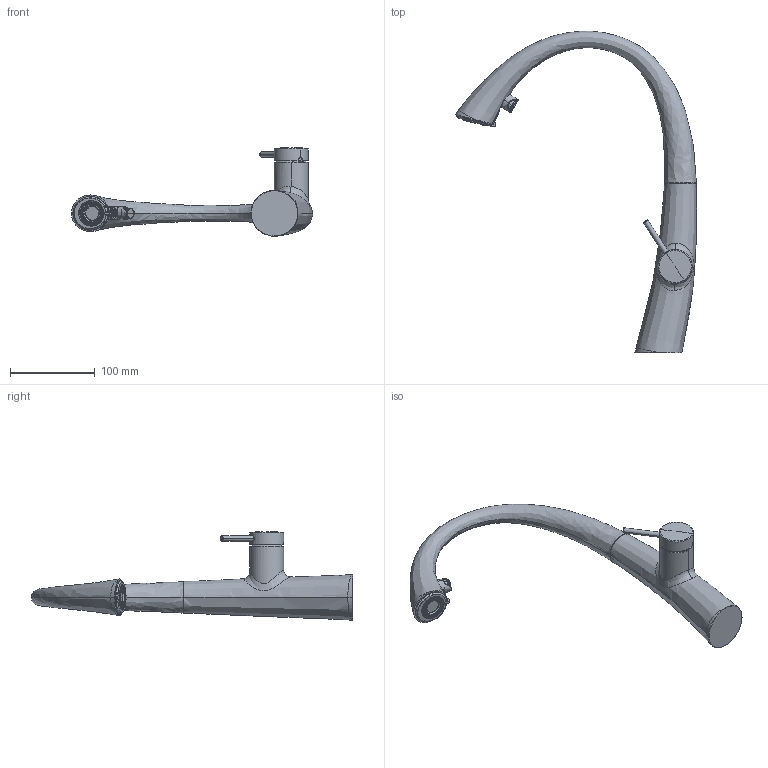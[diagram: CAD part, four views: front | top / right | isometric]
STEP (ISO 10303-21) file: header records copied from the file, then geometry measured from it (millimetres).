
FILE_DESCRIPTION((''),'2;1');
FILE_NAME('102011X2','2012-08-13T',('fujo'),(''),'PRO/ENGINEER BY PARAMETRIC TECHNOLOGY CORPORATION, 2011080','PRO/ENGINEER BY PARAMETRIC TECHNOLOGY CORPORATION, 2011080','');
FILE_SCHEMA(('AUTOMOTIVE_DESIGN_CC2 { 1 2 10303 214 -1 1 5 2 }'));
Products named in the file (1): 102011X2
Bounding box: 284.84 x 379.58 x 104.53 mm (x, y, z)
Volume: 674396.9 mm3; surface area: 79241.7 mm2
Topology: 1 solids, 1 shells, 552 faces, 1284 edges, 764 vertices
Faces by surface type: bspline 258, plane 78, torus 75, cylinder 57, cone 50, extrusion 23, sphere 11
Entity records: 45973 total; most frequent: CARTESIAN_POINT 28718, ORIENTED_EDGE 2560, DIRECTION 1695, EDGE_CURVE 1280, FILL_AREA_STYLE_COLOUR 1079, FILL_AREA_STYLE 1079, SURFACE_STYLE_FILL_AREA 1079, SURFACE_SIDE_STYLE 1079
